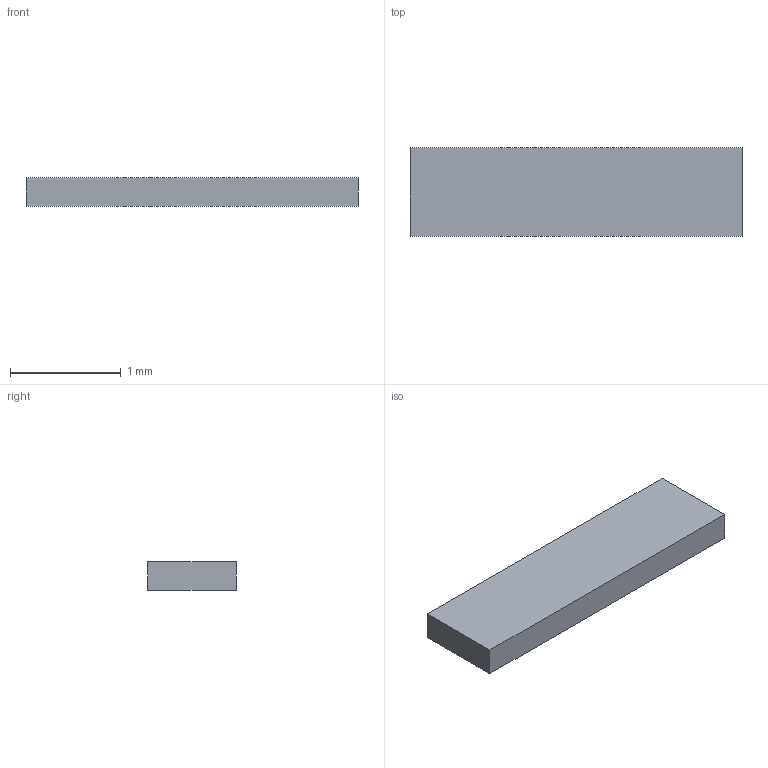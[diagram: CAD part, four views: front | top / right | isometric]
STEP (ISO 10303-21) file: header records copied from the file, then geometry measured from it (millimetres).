
FILE_DESCRIPTION(('Open CASCADE Model'),'2;1');
FILE_NAME('C27_UC1_PCB_Front_Seat_4','2026-09-09T20:28:18',('Author'),( 'Open CASCADE'),'Open CASCADE STEP processor 7.9','build123d', 'Unknown');
FILE_SCHEMA(('AUTOMOTIVE_DESIGN { 1 0 10303 214 1 1 1 1 }'));
Length unit declared in the file: millimetre
Products named in the file (1): C27_UC1_PCB_Front_Seat_4
Bounding box: 3 x 0.8 x 0.26 mm (x, y, z)
Volume: 0.6 mm3; surface area: 6.8 mm2
Topology: 1 solids, 1 shells, 6 faces, 12 edges, 8 vertices
Faces by surface type: plane 6
Entity records: 322 total; most frequent: CARTESIAN_POINT 51, DIRECTION 50, LINE 36, VECTOR 36, ORIENTED_EDGE 24, PCURVE 24, DEFINITIONAL_REPRESENTATION 24, EDGE_CURVE 12
